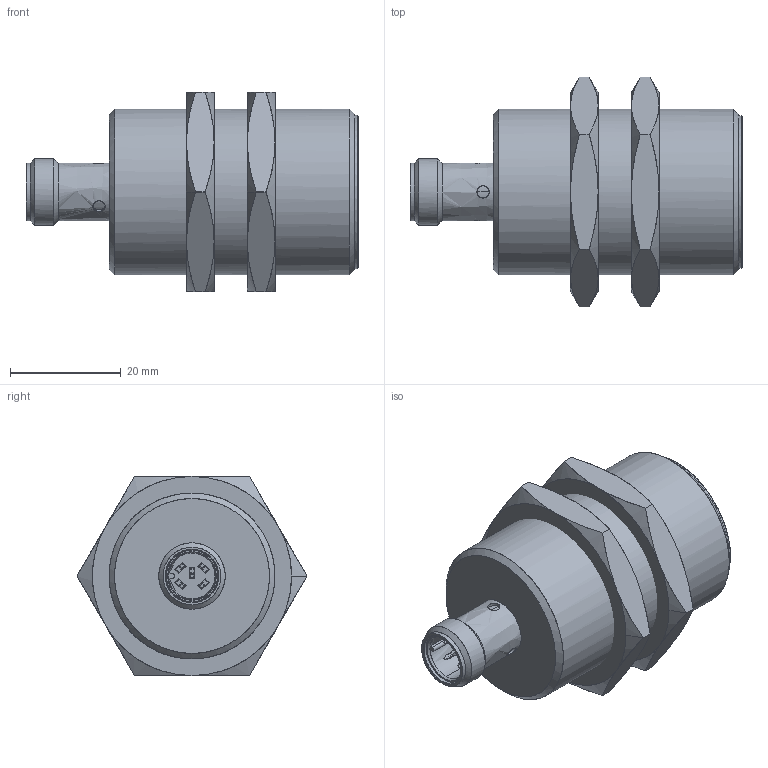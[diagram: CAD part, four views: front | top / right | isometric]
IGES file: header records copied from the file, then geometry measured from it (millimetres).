
Start section: C
Global section: file name: IR30.xxxx-F60.xxxx.7BO.igs; native system: By Siemens PLM Incorporated; preprocessor: XPlus GENERIC/IGES 19.0.9; author: Author; organization: Title; date: 20180111.133537; units: millimetre
Bounding box: 60 x 41.56 x 36 mm (x, y, z)
Surface area: 10381.9 mm2 (no closed solid volume)
Topology: 0 solids, 0 shells, 222 faces, 1140 edges, 1140 vertices
Faces by surface type: bspline 222
